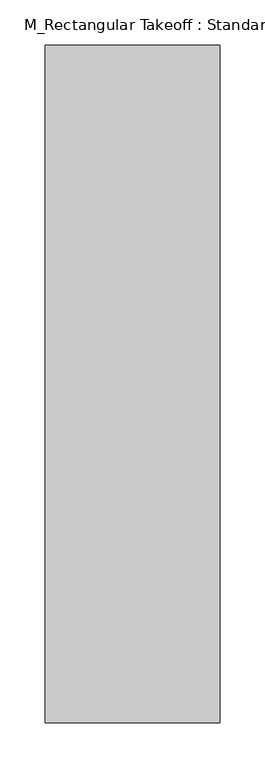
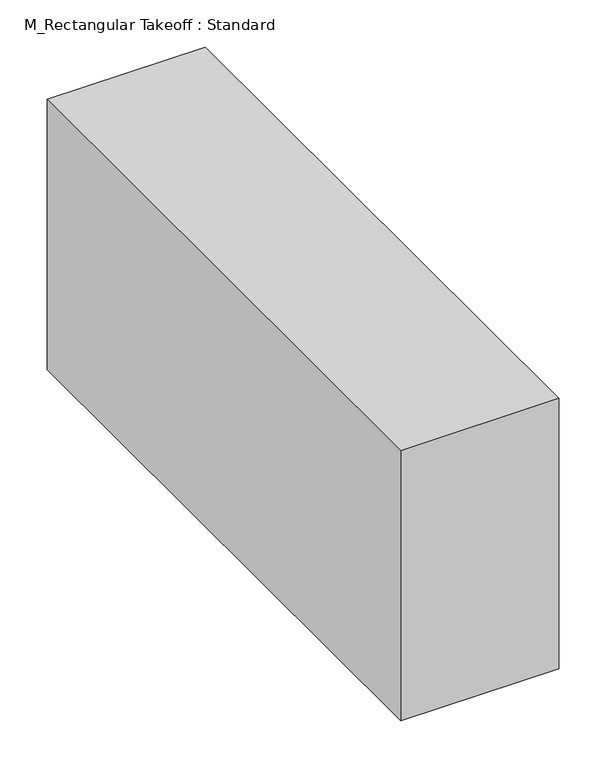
"""IFC4 building model written with IfcOpenShell, lengths in millimetres: duct fitting geometry, M_Rectangular Takeoff : Standard."""

from ifc_helpers import new_model, si_unit, frame, origin, place, context, project, spatial, polyline, outline, extrude, source, transform, mapped, element, save


def m_rectangular_takeoff_standard_ae9d706d(model_context):
    return source(origin(), model_context, "Body", "SweptSolid", [
        extrude(outline(polyline([(-6.096, -375.0), (-6.096, 375.0), (187.5, 375.0), (187.5, -375.0), (-6.096, -375.0)])), frame((0.0, 0.0, -175.0), z_axis=(0.0, 0.0, 1.0), x_axis=(1.0, 0.0, 0.0)), (0.0, 0.0, 1.0), 350.0),
        extrude(outline(polyline([(-6.096, -375.0), (-6.096, 375.0), (187.5, 375.0), (187.5, -375.0), (-6.096, -375.0)])), frame((0.0, 0.0, -175.0), z_axis=(0.0, 0.0, 1.0), x_axis=(1.0, 0.0, 0.0)), (0.0, 0.0, 1.0), 350.0),
        extrude(outline(polyline([(-6.096, -375.0), (-6.096, 375.0), (187.5, 375.0), (187.5, -375.0), (-6.096, -375.0)])), frame((0.0, 0.0, -175.0), z_axis=(0.0, 0.0, 1.0), x_axis=(1.0, 0.0, 0.0)), (0.0, 0.0, 1.0), 350.0),
    ])


if __name__ == "__main__":
    model = new_model("IFC4")
    model_context = context("Model", 3, world=origin())
    ifc_project = project(units=[si_unit("LENGTHUNIT", "METRE", prefix="MILLI")], contexts=[model_context])
    site = spatial("IfcSite", under=ifc_project)
    building = spatial("IfcBuilding", under=site)
    placement = place(None, origin())
    m_rectangular_takeoff_standard_shape = m_rectangular_takeoff_standard_ae9d706d(model_context)
    element("IfcDuctFitting", 1, ObjectType="M_Rectangular Takeoff : Standard", at=placement, inside=building, context=model_context, shape_type="MappedRepresentation", body=[
        mapped(m_rectangular_takeoff_standard_shape, transform((0.0, 0.0, 0.0), x_axis=(1.0, 0.0, 0.0), y_axis=(0.0, 1.0, 0.0), z_axis=(0.0, 0.0, 1.0))),
    ])
    save(model, "model.ifc")
